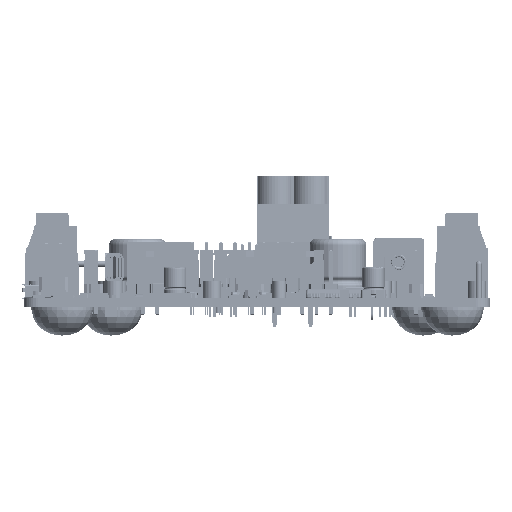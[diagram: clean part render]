
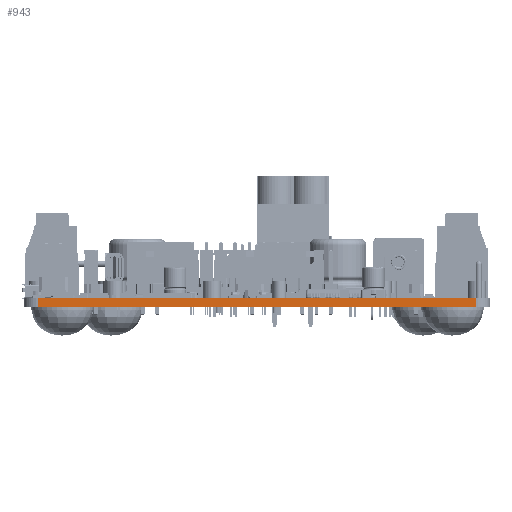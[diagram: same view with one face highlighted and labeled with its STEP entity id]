
A CAD part, left-side view. The second image highlights one B-rep face of the part: STEP entity #943.
In plain terms, the highlighted planar face has unit normal (-1, 0, 0).
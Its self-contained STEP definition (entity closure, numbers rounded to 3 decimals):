
#916 = VERTEX_POINT('',#917);
#917 = CARTESIAN_POINT('',(0.,2.54,1.575));
#924 = EDGE_CURVE('',#925,#916,#927,.T.);
#925 = VERTEX_POINT('',#926);
#926 = CARTESIAN_POINT('',(0.,2.54,0.));
#927 = LINE('',#928,#929);
#928 = CARTESIAN_POINT('',(0.,2.54,0.));
#929 = VECTOR('',#930,1.);
#930 = DIRECTION('',(0.,0.,1.));
#943 = ADVANCED_FACE('',(#944),#969,.T.);
#944 = FACE_BOUND('',#945,.T.);
#945 = EDGE_LOOP('',(#946,#947,#955,#963));
#946 = ORIENTED_EDGE('',*,*,#924,.T.);
#947 = ORIENTED_EDGE('',*,*,#948,.T.);
#948 = EDGE_CURVE('',#916,#949,#951,.T.);
#949 = VERTEX_POINT('',#950);
#950 = CARTESIAN_POINT('',(0.,80.01,1.575));
#951 = LINE('',#952,#953);
#952 = CARTESIAN_POINT('',(0.,2.54,1.575));
#953 = VECTOR('',#954,1.);
#954 = DIRECTION('',(0.,1.,0.));
#955 = ORIENTED_EDGE('',*,*,#956,.F.);
#956 = EDGE_CURVE('',#957,#949,#959,.T.);
#957 = VERTEX_POINT('',#958);
#958 = CARTESIAN_POINT('',(0.,80.01,0.));
#959 = LINE('',#960,#961);
#960 = CARTESIAN_POINT('',(0.,80.01,0.));
#961 = VECTOR('',#962,1.);
#962 = DIRECTION('',(0.,0.,1.));
#963 = ORIENTED_EDGE('',*,*,#964,.F.);
#964 = EDGE_CURVE('',#925,#957,#965,.T.);
#965 = LINE('',#966,#967);
#966 = CARTESIAN_POINT('',(0.,2.54,0.));
#967 = VECTOR('',#968,1.);
#968 = DIRECTION('',(0.,1.,0.));
#969 = PLANE('',#970);
#970 = AXIS2_PLACEMENT_3D('',#971,#972,#973);
#971 = CARTESIAN_POINT('',(0.,2.54,0.));
#972 = DIRECTION('',(-1.,0.,0.));
#973 = DIRECTION('',(0.,1.,0.));
